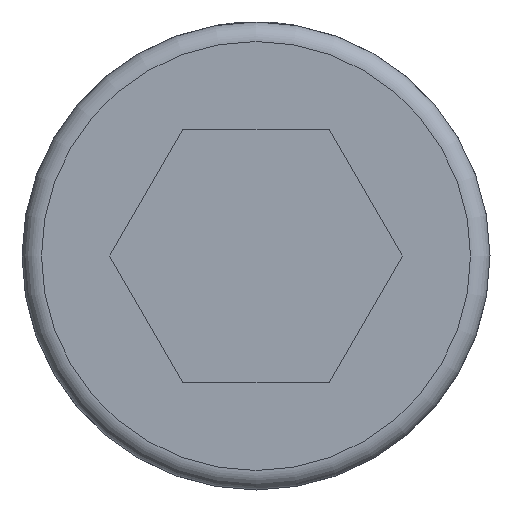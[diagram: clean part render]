
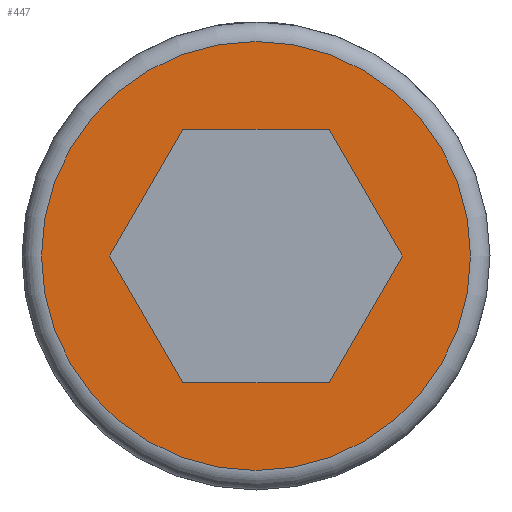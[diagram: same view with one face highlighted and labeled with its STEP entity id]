
A CAD part, left-side view. The second image highlights one B-rep face of the part: STEP entity #447.
In plain terms, the highlighted planar face has unit normal (-1, 0, 0).
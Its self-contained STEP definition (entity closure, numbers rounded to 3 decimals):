
#377=CARTESIAN_POINT('',(135.0,0.,11.));
#378=VERTEX_POINT('',#377);
#379=CARTESIAN_POINT('',(135.0,0.0,0.0));
#380=DIRECTION('',(1.0,0.0,0.0));
#381=DIRECTION('',(0.0,0.0,-1.0));
#382=AXIS2_PLACEMENT_3D('',#379,#380,#381);
#383=CIRCLE('',#382,11.);
#384=EDGE_CURVE('',#378,#378,#383,.T.);
#389=CARTESIAN_POINT('',(135.0,0.0,6.));
#390=DIRECTION('',(-1.0,0.0,0.0));
#391=DIRECTION('',(0.0,0.0,1.0));
#392=AXIS2_PLACEMENT_3D('',#389,#390,#391);
#393=PLANE('',#392);
#394=ORIENTED_EDGE('',*,*,#384,.F.);
#395=EDGE_LOOP('',(#394));
#396=FACE_OUTER_BOUND('',#395,.T.);
#397=CARTESIAN_POINT('',(135.0,-3.753,-6.5));
#398=VERTEX_POINT('',#397);
#399=CARTESIAN_POINT('',(135.0,3.753,-6.5));
#400=VERTEX_POINT('',#399);
#401=CARTESIAN_POINT('',(135.0,-3.753,-6.5));
#402=DIRECTION('',(0.0,1.0,0.0));
#403=VECTOR('',#402,7.506);
#404=LINE('',#401,#403);
#405=EDGE_CURVE('',#398,#400,#404,.T.);
#406=ORIENTED_EDGE('',*,*,#405,.T.);
#407=CARTESIAN_POINT('',(135.0,7.506,0.));
#408=VERTEX_POINT('',#407);
#409=CARTESIAN_POINT('',(135.0,3.753,-6.5));
#410=DIRECTION('',(0.0,0.5,0.866));
#411=VECTOR('',#410,7.506);
#412=LINE('',#409,#411);
#413=EDGE_CURVE('',#400,#408,#412,.T.);
#414=ORIENTED_EDGE('',*,*,#413,.T.);
#415=CARTESIAN_POINT('',(135.0,3.753,6.5));
#416=VERTEX_POINT('',#415);
#417=CARTESIAN_POINT('',(135.0,7.506,0.));
#418=DIRECTION('',(0.0,-0.5,0.866));
#419=VECTOR('',#418,7.506);
#420=LINE('',#417,#419);
#421=EDGE_CURVE('',#408,#416,#420,.T.);
#422=ORIENTED_EDGE('',*,*,#421,.T.);
#423=CARTESIAN_POINT('',(135.0,-3.753,6.5));
#424=VERTEX_POINT('',#423);
#425=CARTESIAN_POINT('',(135.0,3.753,6.5));
#426=DIRECTION('',(0.0,-1.0,0.0));
#427=VECTOR('',#426,7.506);
#428=LINE('',#425,#427);
#429=EDGE_CURVE('',#416,#424,#428,.T.);
#430=ORIENTED_EDGE('',*,*,#429,.T.);
#431=CARTESIAN_POINT('',(135.0,-7.506,0.0));
#432=VERTEX_POINT('',#431);
#433=CARTESIAN_POINT('',(135.0,-3.753,6.5));
#434=DIRECTION('',(0.0,-0.5,-0.866));
#435=VECTOR('',#434,7.506);
#436=LINE('',#433,#435);
#437=EDGE_CURVE('',#424,#432,#436,.T.);
#438=ORIENTED_EDGE('',*,*,#437,.T.);
#439=CARTESIAN_POINT('',(135.0,-7.506,0.0));
#440=DIRECTION('',(0.0,0.5,-0.866));
#441=VECTOR('',#440,7.506);
#442=LINE('',#439,#441);
#443=EDGE_CURVE('',#432,#398,#442,.T.);
#444=ORIENTED_EDGE('',*,*,#443,.T.);
#445=EDGE_LOOP('',(#406,#414,#422,#430,#438,#444));
#446=FACE_BOUND('',#445,.T.);
#447=ADVANCED_FACE('',(#396,#446),#393,.T.);
